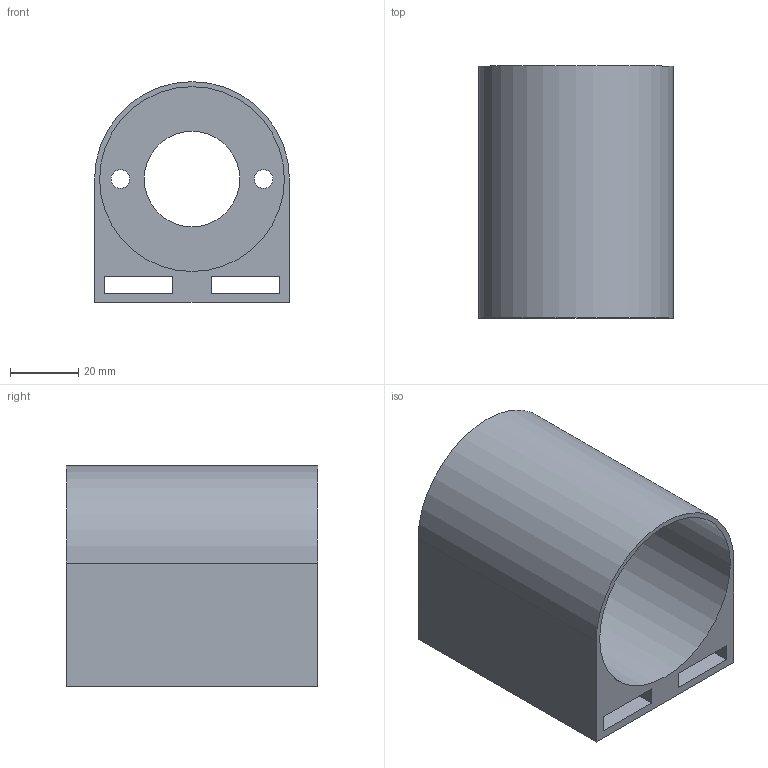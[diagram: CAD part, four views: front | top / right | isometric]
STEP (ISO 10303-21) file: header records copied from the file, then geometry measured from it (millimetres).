
FILE_DESCRIPTION(('STEP AP242 Edition 2','STEP AP242 Edition 2''CAx-IF Rec.Pracs.---Representation and Presentation of Product Manufacturing Information (PMI)---4.0---2014-10-13','STEP AP242 Edition 2''CAx-IF Rec.Pracs.---Representation and Presentation of Product Manufacturing Information (PMI)---4.0---2014-10-13''CAx-IF Rec.Pracs.---3D Tessellated Geometry---0.4---2014-09-14','STEP AP242 Edition 2''CAx-IF Rec.Pracs.---Representation and Presentation of Product Manufacturing Information (PMI)---4.0---2014-10-13''CAx-IF Rec.Pracs.---3D Tessellated Geometry---0.4---2014-09-14''2;1','STEP AP242 Edition 2''CAx-IF Rec.Pracs.---Representation and Presentation of Product Manufacturing Information (PMI)---4.0---2014-10-13''CAx-IF Rec.Pracs.---3D Tessellated Geometry---0.4---2014-09-14''2;1''CAx-IF Rec.Pracs.---User Defined Attributes---1.5---2016-08-15'),'2;1');
FILE_NAME('/vol/tmp/translate-13862707167261782496/Part Studio 1 - Part 1.step','2026-03-05T22:47:00',(''),(''),'ST-DEVELOPER v20','ONSHAPE BY PTC INC, 1.211',' ');
FILE_SCHEMA(('AP242_MANAGED_MODEL_BASED_3D_ENGINEERING_MIM_LF { 1 0 10303 442 3 1 4 }'));
Length unit declared in the file: metre
Products named in the file (1): Part 1
Bounding box: 57.15 x 73.85 x 64.73 mm (x, y, z)
Volume: 68494.9 mm3; surface area: 40947.4 mm2
Topology: 1 solids, 1 shells, 19 faces, 48 edges, 32 vertices
Faces by surface type: plane 14, cylinder 5
Full cylindrical faces by diameter (mm): 5.5 x2, 28 x1, 54.2 x1
Entity records: 594 total; most frequent: CARTESIAN_POINT 96, DIRECTION 94, ORIENTED_EDGE 88, EDGE_CURVE 44, LINE 34, VECTOR 34, EDGE_LOOP 34, FACE_BOUND 34
